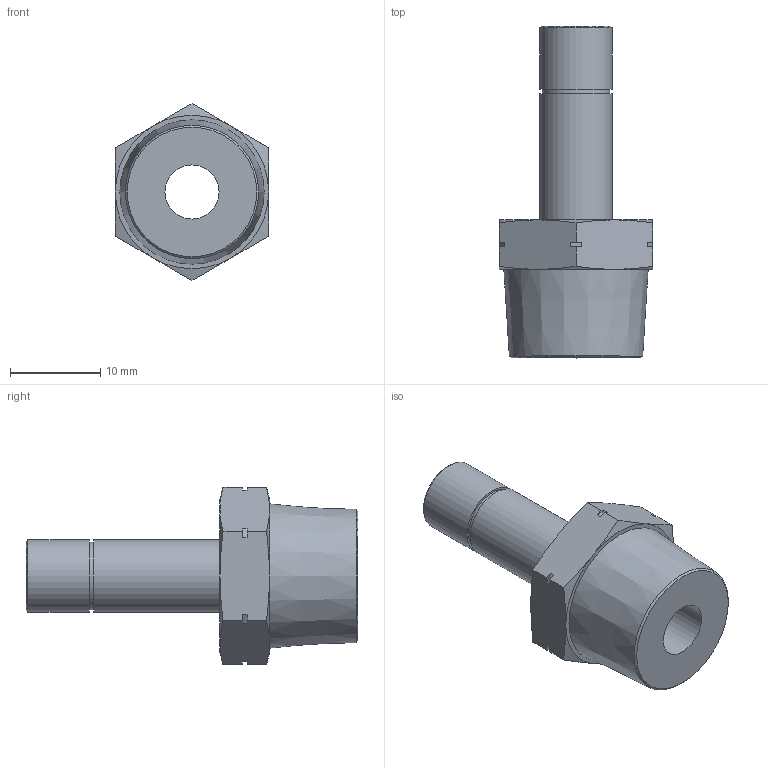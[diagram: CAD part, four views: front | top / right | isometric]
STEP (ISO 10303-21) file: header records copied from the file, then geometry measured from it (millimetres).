
FILE_DESCRIPTION(/* description */ (''),/* implementation_level */ '2;1');
FILE_NAME(/* name */ 'LXH15 0008 N3.stp',/* time_stamp */ '2026-04-28T16:34:40+02:00',/* author */ ('freju'),/* organization */ (''),/* preprocessor_version */ 'ST-DEVELOPER v20.1',/* originating_system */ 'Autodesk Inventor 2026',/* authorisation */ '');
FILE_SCHEMA (('AUTOMOTIVE_DESIGN { 1 0 10303 214 3 1 1 }'));
Length unit declared in the file: millimetre
Products named in the file (1): LXH15 0008 N3
Bounding box: 17 x 36.8 x 19.63 mm (x, y, z)
Volume: 3230.4 mm3; surface area: 2440 mm2
Topology: 1 solids, 1 shells, 49 faces, 117 edges, 74 vertices
Faces by surface type: plane 24, cone 15, cylinder 10
Full cylindrical faces by diameter (mm): 6 x1, 7.5 x1, 8 x2
Entity records: 1436 total; most frequent: CARTESIAN_POINT 289, ORIENTED_EDGE 234, DIRECTION 231, EDGE_CURVE 117, AXIS2_PLACEMENT_3D 88, VERTEX_POINT 74, EDGE_LOOP 55, LINE 55
